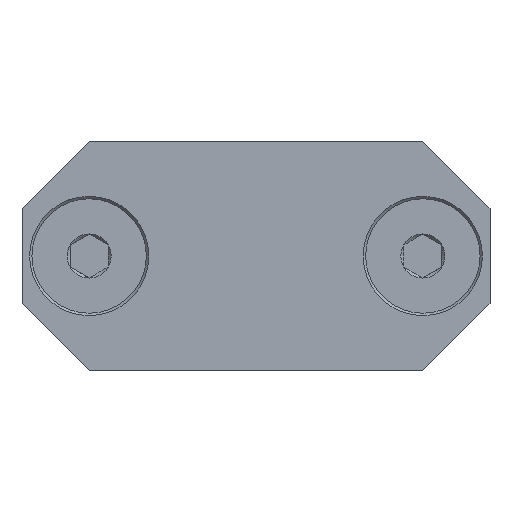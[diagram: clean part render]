
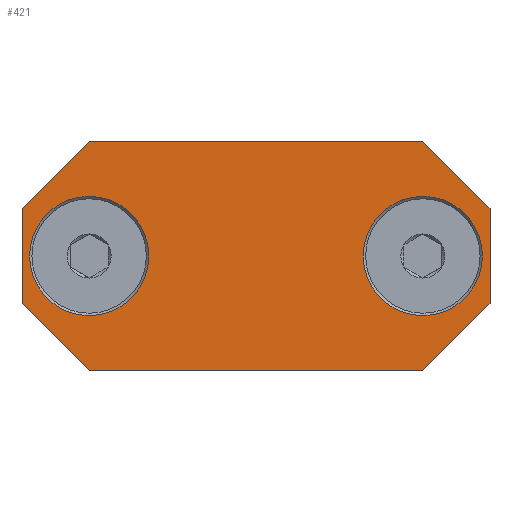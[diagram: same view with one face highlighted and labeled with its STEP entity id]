
A CAD part, top view. The second image highlights one B-rep face of the part: STEP entity #421.
In plain terms, the highlighted planar face has unit normal (0, 0, 1).
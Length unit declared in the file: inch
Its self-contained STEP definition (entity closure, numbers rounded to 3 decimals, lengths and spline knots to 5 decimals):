
#15 = FACE_BOUND ( 'NONE', #1218, .T. ) ;
#29 = CARTESIAN_POINT ( 'NONE',  ( -0.96625, 0.19639, 0. ) ) ;
#63 = DIRECTION ( 'NONE',  ( 0., -1., 0. ) ) ;
#65 = VECTOR ( 'NONE', #63, 39.37008 ) ;
#80 = VECTOR ( 'NONE', #1183, 39.37008 ) ;
#97 = DIRECTION ( 'NONE',  ( 0., 0., 1. ) ) ;
#99 = DIRECTION ( 'NONE',  ( -0.707, 0.707, 0. ) ) ;
#116 = DIRECTION ( 'NONE',  ( 0., 0., 1. ) ) ;
#132 = DIRECTION ( 'NONE',  ( 1., 0., 0. ) ) ;
#147 = DIRECTION ( 'NONE',  ( 1., 0., 0. ) ) ;
#166 = EDGE_CURVE ( 'NONE', #793, #297, #1368, .T. ) ;
#176 = ORIENTED_EDGE ( 'NONE', *, *, #1349, .F. ) ;
#193 = EDGE_LOOP ( 'NONE', ( #176 ) ) ;
#202 = AXIS2_PLACEMENT_3D ( 'NONE', #1276, #461, #132 ) ;
#206 = AXIS2_PLACEMENT_3D ( 'NONE', #1129, #116, #560 ) ;
#257 = EDGE_CURVE ( 'NONE', #1188, #1188, #1211, .T. ) ;
#265 = EDGE_CURVE ( 'NONE', #297, #887, #1356, .T. ) ;
#267 = CARTESIAN_POINT ( 'NONE',  ( -0.68852, -0.47413, 0. ) ) ;
#297 = VERTEX_POINT ( 'NONE', #1008 ) ;
#308 = ORIENTED_EDGE ( 'NONE', *, *, #1161, .T. ) ;
#313 = ORIENTED_EDGE ( 'NONE', *, *, #1192, .T. ) ;
#318 = LINE ( 'NONE', #644, #429 ) ;
#329 = LINE ( 'NONE', #434, #1017 ) ;
#337 = CARTESIAN_POINT ( 'NONE',  ( -0.68852, 0.47413, 0. ) ) ;
#342 = VECTOR ( 'NONE', #99, 39.37008 ) ;
#343 = ORIENTED_EDGE ( 'NONE', *, *, #1144, .T. ) ;
#348 = ORIENTED_EDGE ( 'NONE', *, *, #1101, .T. ) ;
#385 = CARTESIAN_POINT ( 'NONE',  ( 0.68852, -0.47413, 0. ) ) ;
#412 = CARTESIAN_POINT ( 'NONE',  ( -0.96625, -0.19639, 0. ) ) ;
#421 = ADVANCED_FACE ( 'NONE', ( #802, #15, #812 ), #1049, .T. ) ;
#429 = VECTOR ( 'NONE', #892, 39.37008 ) ;
#430 = VERTEX_POINT ( 'NONE', #1141 ) ;
#433 = DIRECTION ( 'NONE',  ( 1., 0., 0. ) ) ;
#434 = CARTESIAN_POINT ( 'NONE',  ( 0.68852, -0.47413, 0. ) ) ;
#461 = DIRECTION ( 'NONE',  ( 0., 0., 1. ) ) ;
#483 = VERTEX_POINT ( 'NONE', #1025 ) ;
#504 = CARTESIAN_POINT ( 'NONE',  ( 0.68852, 0.47413, 0. ) ) ;
#560 = DIRECTION ( 'NONE',  ( 1., 0., 0. ) ) ;
#601 = CARTESIAN_POINT ( 'NONE',  ( -0.96625, -0.19639, 0. ) ) ;
#644 = CARTESIAN_POINT ( 'NONE',  ( 0.96625, -0.19639, 0. ) ) ;
#645 = ORIENTED_EDGE ( 'NONE', *, *, #166, .T. ) ;
#651 = VERTEX_POINT ( 'NONE', #412 ) ;
#664 = CIRCLE ( 'NONE', #206, 0.24606 ) ;
#710 = AXIS2_PLACEMENT_3D ( 'NONE', #1106, #97, #433 ) ;
#750 = LINE ( 'NONE', #601, #1142 ) ;
#753 = CARTESIAN_POINT ( 'NONE',  ( 0.68852, 0.47413, 0. ) ) ;
#783 = VECTOR ( 'NONE', #147, 39.37008 ) ;
#785 = ORIENTED_EDGE ( 'NONE', *, *, #1444, .T. ) ;
#793 = VERTEX_POINT ( 'NONE', #753 ) ;
#802 = FACE_BOUND ( 'NONE', #193, .T. ) ;
#812 = FACE_OUTER_BOUND ( 'NONE', #1294, .T. ) ;
#824 = EDGE_CURVE ( 'NONE', #1186, #1391, #1030, .T. ) ;
#830 = VECTOR ( 'NONE', #884, 39.37008 ) ;
#880 = DIRECTION ( 'NONE',  ( 0.707, 0.707, 0. ) ) ;
#884 = DIRECTION ( 'NONE',  ( -0.707, -0.707, 0. ) ) ;
#887 = VERTEX_POINT ( 'NONE', #29 ) ;
#892 = DIRECTION ( 'NONE',  ( 0., 1., 0. ) ) ;
#974 = ORIENTED_EDGE ( 'NONE', *, *, #257, .F. ) ;
#1008 = CARTESIAN_POINT ( 'NONE',  ( -0.68852, 0.47413, 0. ) ) ;
#1017 = VECTOR ( 'NONE', #880, 39.37008 ) ;
#1025 = CARTESIAN_POINT ( 'NONE',  ( 0.96625, 0.19639, 0. ) ) ;
#1030 = LINE ( 'NONE', #267, #783 ) ;
#1031 = ORIENTED_EDGE ( 'NONE', *, *, #824, .T. ) ;
#1049 = PLANE ( 'NONE',  #202 ) ;
#1053 = DIRECTION ( 'NONE',  ( 0.707, -0.707, 0. ) ) ;
#1057 = CARTESIAN_POINT ( 'NONE',  ( -0.96625, 0.19639, 0. ) ) ;
#1073 = CARTESIAN_POINT ( 'NONE',  ( 0.93504, 0., 0. ) ) ;
#1089 = CARTESIAN_POINT ( 'NONE',  ( -0.68852, -0.47413, 0. ) ) ;
#1101 = EDGE_CURVE ( 'NONE', #651, #1186, #750, .T. ) ;
#1106 = CARTESIAN_POINT ( 'NONE',  ( 0.68898, 0., 0. ) ) ;
#1111 = CARTESIAN_POINT ( 'NONE',  ( -0.44291, 0., 0. ) ) ;
#1113 = CARTESIAN_POINT ( 'NONE',  ( 0.96625, 0.19639, 0. ) ) ;
#1121 = VERTEX_POINT ( 'NONE', #1111 ) ;
#1129 = CARTESIAN_POINT ( 'NONE',  ( -0.68898, 0., 0. ) ) ;
#1141 = CARTESIAN_POINT ( 'NONE',  ( 0.96625, -0.19639, 0. ) ) ;
#1142 = VECTOR ( 'NONE', #1053, 39.37008 ) ;
#1144 = EDGE_CURVE ( 'NONE', #430, #483, #318, .T. ) ;
#1161 = EDGE_CURVE ( 'NONE', #1391, #430, #329, .T. ) ;
#1183 = DIRECTION ( 'NONE',  ( -1., 0., 0. ) ) ;
#1186 = VERTEX_POINT ( 'NONE', #1089 ) ;
#1188 = VERTEX_POINT ( 'NONE', #1073 ) ;
#1192 = EDGE_CURVE ( 'NONE', #483, #793, #1217, .T. ) ;
#1211 = CIRCLE ( 'NONE', #710, 0.24606 ) ;
#1217 = LINE ( 'NONE', #1113, #342 ) ;
#1218 = EDGE_LOOP ( 'NONE', ( #974 ) ) ;
#1276 = CARTESIAN_POINT ( 'NONE',  ( 0., 0., 0. ) ) ;
#1294 = EDGE_LOOP ( 'NONE', ( #785, #348, #1031, #308, #343, #313, #645, #1385 ) ) ;
#1349 = EDGE_CURVE ( 'NONE', #1121, #1121, #664, .T. ) ;
#1356 = LINE ( 'NONE', #337, #830 ) ;
#1368 = LINE ( 'NONE', #504, #80 ) ;
#1385 = ORIENTED_EDGE ( 'NONE', *, *, #265, .T. ) ;
#1391 = VERTEX_POINT ( 'NONE', #385 ) ;
#1418 = LINE ( 'NONE', #1057, #65 ) ;
#1444 = EDGE_CURVE ( 'NONE', #887, #651, #1418, .T. ) ;
